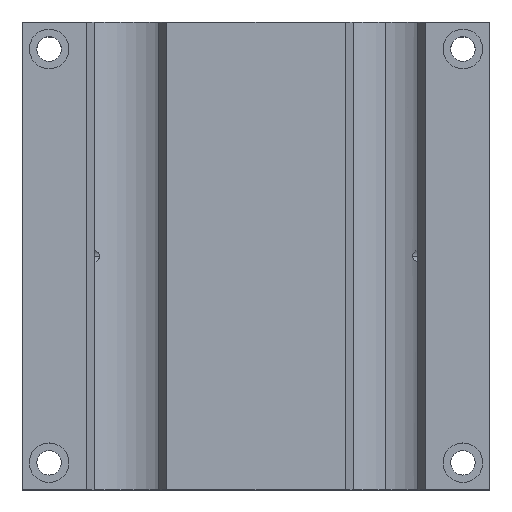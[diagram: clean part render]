
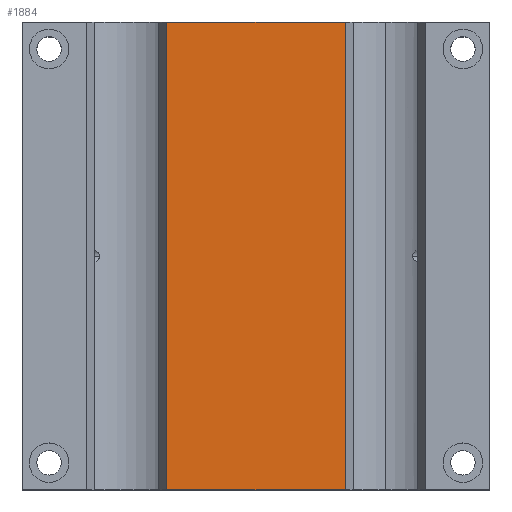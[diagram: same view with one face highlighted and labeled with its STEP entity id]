
A CAD part, top view. The second image highlights one B-rep face of the part: STEP entity #1884.
In plain terms, the highlighted planar face has unit normal (0, 0, 1).
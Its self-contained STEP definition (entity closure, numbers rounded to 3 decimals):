
#38 = FACE_OUTER_BOUND ( 'NONE', #2386, .T. ) ;
#50 = LINE ( 'NONE', #1596, #452 ) ;
#372 = VERTEX_POINT ( 'NONE', #583 ) ;
#445 = CARTESIAN_POINT ( 'NONE',  ( 24.821, -65., 21. ) ) ;
#452 = VECTOR ( 'NONE', #1829, 1000. ) ;
#472 = VERTEX_POINT ( 'NONE', #974 ) ;
#583 = CARTESIAN_POINT ( 'NONE',  ( -24.821, 65., 21. ) ) ;
#606 = CARTESIAN_POINT ( 'NONE',  ( -65., -65., 21. ) ) ;
#693 = CARTESIAN_POINT ( 'NONE',  ( 0., 0., 21. ) ) ;
#863 = EDGE_CURVE ( 'NONE', #1190, #372, #50, .T. ) ;
#869 = PLANE ( 'NONE',  #2768 ) ;
#888 = LINE ( 'NONE', #1585, #1913 ) ;
#894 = ORIENTED_EDGE ( 'NONE', *, *, #2765, .T. ) ;
#974 = CARTESIAN_POINT ( 'NONE',  ( -24.821, -65., 21. ) ) ;
#1019 = LINE ( 'NONE', #2053, #2719 ) ;
#1148 = VECTOR ( 'NONE', #2740, 1000. ) ;
#1190 = VERTEX_POINT ( 'NONE', #2017 ) ;
#1246 = ORIENTED_EDGE ( 'NONE', *, *, #863, .T. ) ;
#1380 = DIRECTION ( 'NONE',  ( 0., 1., 0. ) ) ;
#1528 = EDGE_CURVE ( 'NONE', #1973, #1190, #888, .T. ) ;
#1585 = CARTESIAN_POINT ( 'NONE',  ( 24.821, -65., 21. ) ) ;
#1596 = CARTESIAN_POINT ( 'NONE',  ( -65., 65., 21. ) ) ;
#1749 = DIRECTION ( 'NONE',  ( 0., 0., 1. ) ) ;
#1764 = EDGE_CURVE ( 'NONE', #472, #372, #1019, .T. ) ;
#1829 = DIRECTION ( 'NONE',  ( -1., 0., 0. ) ) ;
#1874 = DIRECTION ( 'NONE',  ( 0., 1., 0. ) ) ;
#1884 = ADVANCED_FACE ( 'NONE', ( #38 ), #869, .T. ) ;
#1913 = VECTOR ( 'NONE', #1380, 1000. ) ;
#1973 = VERTEX_POINT ( 'NONE', #445 ) ;
#2017 = CARTESIAN_POINT ( 'NONE',  ( 24.821, 65., 21. ) ) ;
#2053 = CARTESIAN_POINT ( 'NONE',  ( -24.821, -65., 21. ) ) ;
#2203 = DIRECTION ( 'NONE',  ( 1., 0., 0. ) ) ;
#2386 = EDGE_LOOP ( 'NONE', ( #894, #2391, #1246, #2414 ) ) ;
#2391 = ORIENTED_EDGE ( 'NONE', *, *, #1528, .T. ) ;
#2414 = ORIENTED_EDGE ( 'NONE', *, *, #1764, .F. ) ;
#2554 = LINE ( 'NONE', #606, #1148 ) ;
#2719 = VECTOR ( 'NONE', #1874, 1000. ) ;
#2740 = DIRECTION ( 'NONE',  ( 1., 0., 0. ) ) ;
#2765 = EDGE_CURVE ( 'NONE', #472, #1973, #2554, .T. ) ;
#2768 = AXIS2_PLACEMENT_3D ( 'NONE', #693, #1749, #2203 ) ;
